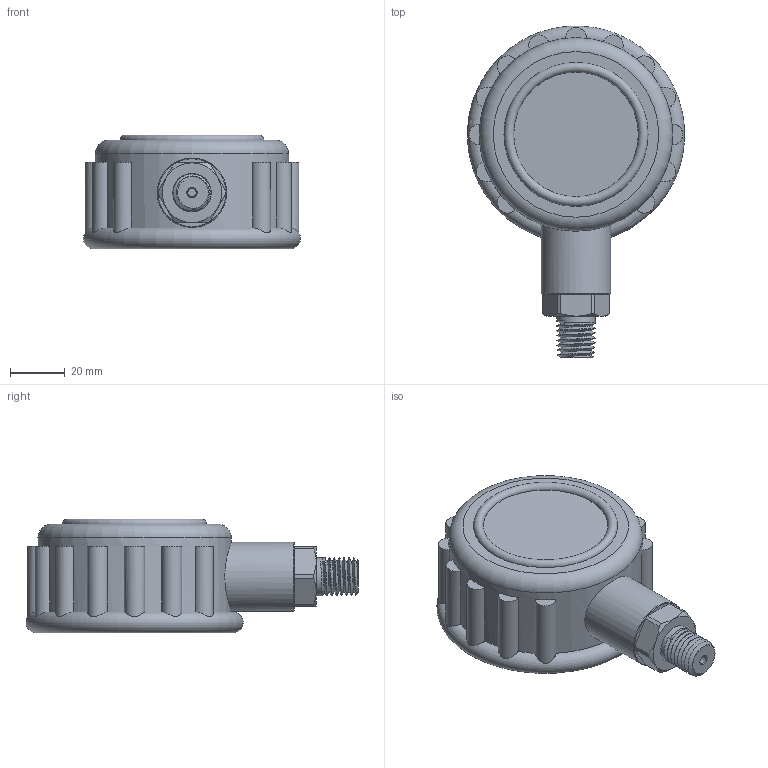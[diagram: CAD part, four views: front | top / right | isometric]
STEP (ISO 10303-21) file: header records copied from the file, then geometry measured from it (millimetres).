
FILE_DESCRIPTION(/* description */ (''),/* implementation_level */ '2;1');
FILE_NAME(/* name */ 'DG25 Gauge.stp',/* time_stamp */ '2023-10-23T07:53:50-05:00',/* author */ ('Sam'),/* organization */ (''),/* preprocessor_version */ 'ST-DEVELOPER v20',/* originating_system */ 'Autodesk Inventor 2024',/* authorisation */ '');
FILE_SCHEMA (('AUTOMOTIVE_DESIGN { 1 0 10303 214 3 1 1 }'));
Length unit declared in the file: inch
Products named in the file (1): DG25 Gauge
Bounding box: 79.61 x 121.72 x 41.65 mm (x, y, z)
Volume: 172218.5 mm3; surface area: 24356.9 mm2
Topology: 1 solids, 2 shells, 376 faces, 997 edges, 669 vertices
Faces by surface type: plane 223, bspline 115, cylinder 29, cone 5, torus 4
Full cylindrical faces by diameter (mm): 2.997 x1, 13.97 x3, 14.072 x1, 25.4 x1, 66.04 x1, 70.866 x1
Entity records: 16207 total; most frequent: CARTESIAN_POINT 7459, ORIENTED_EDGE 1994, DIRECTION 1339, EDGE_CURVE 997, VERTEX_POINT 669, LINE 645, VECTOR 645, EDGE_LOOP 422
